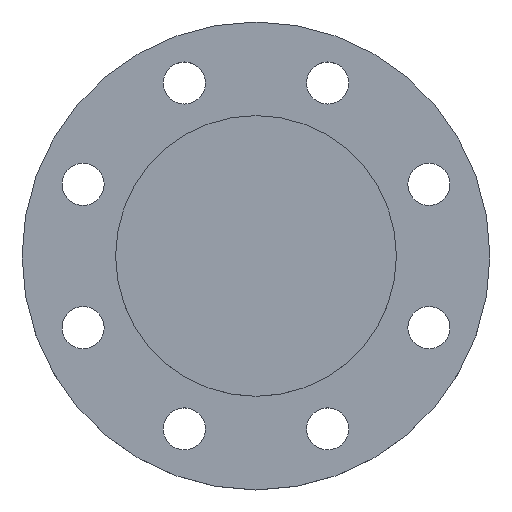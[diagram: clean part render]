
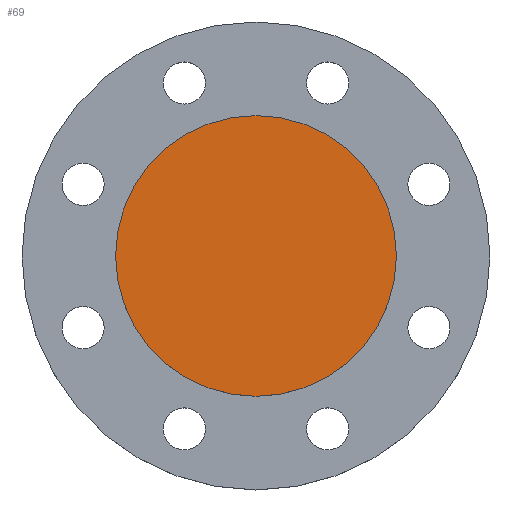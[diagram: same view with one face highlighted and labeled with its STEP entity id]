
A CAD part, top view. The second image highlights one B-rep face of the part: STEP entity #69.
In plain terms, the highlighted planar face has unit normal (0, 0, 1).
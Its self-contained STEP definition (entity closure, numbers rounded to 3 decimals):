
#22 = VERTEX_POINT ( 'NONE', #502 ) ;
#53 = AXIS2_PLACEMENT_3D ( 'NONE', #577, #578, #579 ) ;
#69 = ADVANCED_FACE ( 'NONE', ( #575 ), #576, .T. ) ;
#127 = AXIS2_PLACEMENT_3D ( 'NONE', #163, #162, #161 ) ;
#161 = DIRECTION ( 'NONE',  ( -1., 0., 0. ) ) ;
#162 = DIRECTION ( 'NONE',  ( 0., 0., -1. ) ) ;
#163 = CARTESIAN_POINT ( 'NONE',  ( 0., 0., 0. ) ) ;
#213 = CARTESIAN_POINT ( 'NONE',  ( 60., 0., 0. ) ) ;
#268 = DIRECTION ( 'NONE',  ( -1., 0., 0. ) ) ;
#269 = DIRECTION ( 'NONE',  ( 0., 0., -1. ) ) ;
#270 = CARTESIAN_POINT ( 'NONE',  ( 0., 0., 0. ) ) ;
#369 = AXIS2_PLACEMENT_3D ( 'NONE', #270, #269, #268 ) ;
#394 = CIRCLE ( 'NONE', #369, 60. ) ;
#502 = CARTESIAN_POINT ( 'NONE',  ( -60., 0., 0. ) ) ;
#575 = FACE_OUTER_BOUND ( 'NONE', #902, .T. ) ;
#576 = PLANE ( 'NONE',  #53 ) ;
#577 = CARTESIAN_POINT ( 'NONE',  ( 0., 0., 0. ) ) ;
#578 = DIRECTION ( 'NONE',  ( 0., 0., 1. ) ) ;
#579 = DIRECTION ( 'NONE',  ( 1., 0., 0. ) ) ;
#637 = CIRCLE ( 'NONE', #127, 60. ) ;
#697 = EDGE_CURVE ( 'NONE', #22, #731, #394, .T. ) ;
#731 = VERTEX_POINT ( 'NONE', #213 ) ;
#774 = EDGE_CURVE ( 'NONE', #731, #22, #637, .T. ) ;
#872 = ORIENTED_EDGE ( 'NONE', *, *, #697, .F. ) ;
#873 = ORIENTED_EDGE ( 'NONE', *, *, #774, .F. ) ;
#902 = EDGE_LOOP ( 'NONE', ( #872, #873 ) ) ;
